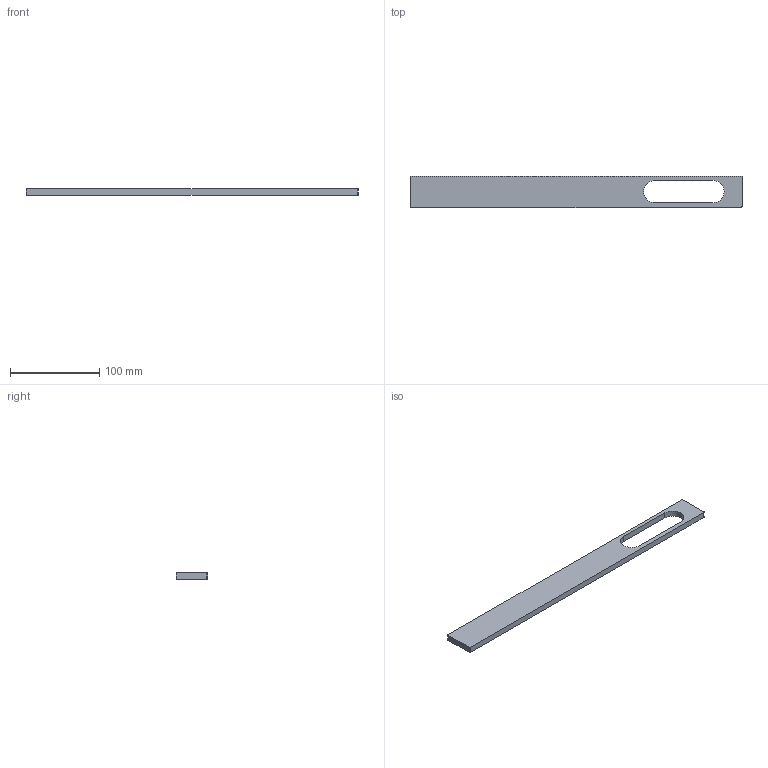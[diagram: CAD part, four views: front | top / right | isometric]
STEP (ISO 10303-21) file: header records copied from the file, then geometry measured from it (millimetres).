
FILE_DESCRIPTION( ( '' ), '1' );
FILE_NAME( 'D:/1.AUTOCAD EXPORT/Group 10/sheet_10_1/DONE/Sachin_1/115007.stp', '2013-10-29T09:46:46', ( '' ), ( '' ), ' ', ' ', ' ' );
FILE_SCHEMA( ( 'CONFIG_CONTROL_DESIGN' ) );
Length unit declared in the file: millimetre
Products named in the file (1): 1
Bounding box: 372 x 35 x 7 mm (x, y, z)
Volume: 76124.8 mm3; surface area: 29160.2 mm2
Topology: 1 solids, 1 shells, 18 faces, 42 edges, 28 vertices
Faces by surface type: plane 10, cylinder 8
Entity records: 570 total; most frequent: DIRECTION 96, CARTESIAN_POINT 89, ORIENTED_EDGE 84, EDGE_CURVE 42, AXIS2_PLACEMENT_3D 35, VERTEX_POINT 28, LINE 26, VECTOR 26
